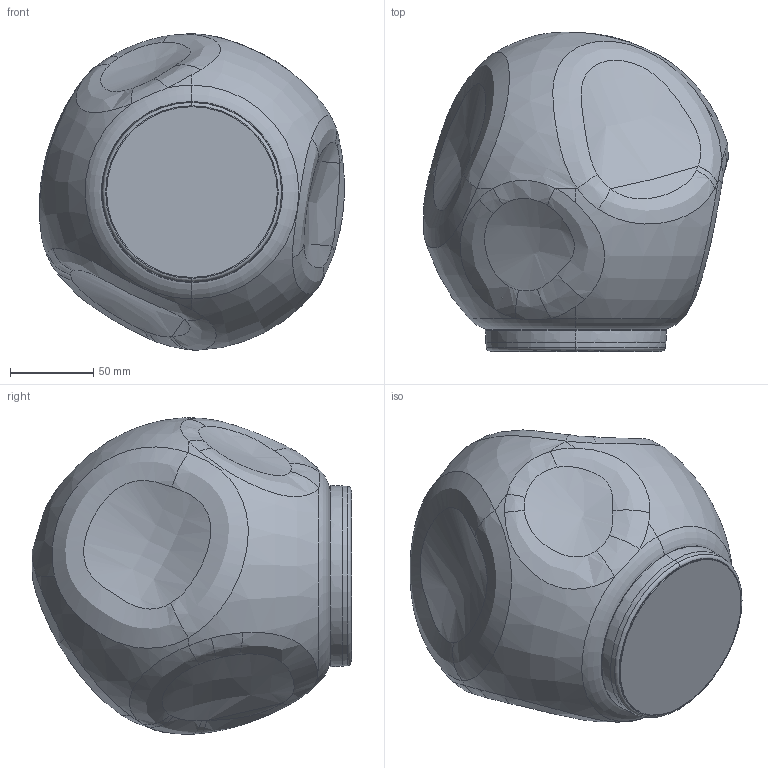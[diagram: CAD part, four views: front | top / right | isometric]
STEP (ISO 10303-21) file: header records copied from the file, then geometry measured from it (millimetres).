
FILE_DESCRIPTION (( 'STEP AP203' ), '1' );
FILE_NAME ('325_MIDI_T_ME_3D.STEP', '2023-12-13T11:24:41', ( '' ), ( '' ), 'SwSTEP 2.0', 'SolidWorks 2023', '' );
FILE_SCHEMA (( 'CONFIG_CONTROL_DESIGN' ));
Length unit declared in the file: millimetre
Products named in the file (1): 325_MIDI_T_ME_3D
Bounding box: 183.12 x 191.94 x 189.95 mm (x, y, z)
Volume: 271600.1 mm3; surface area: 231635.6 mm2
Topology: 2 solids, 2 shells, 136 faces, 326 edges, 193 vertices
Faces by surface type: bspline 91, torus 16, cylinder 10, sphere 8, plane 7, cone 4
Entity records: 63382 total; most frequent: CARTESIAN_POINT 60888, ORIENTED_EDGE 644, EDGE_CURVE 322, DIRECTION 266, B_SPLINE_CURVE_WITH_KNOTS 224, VERTEX_POINT 193, EDGE_LOOP 139, FACE_OUTER_BOUND 136
